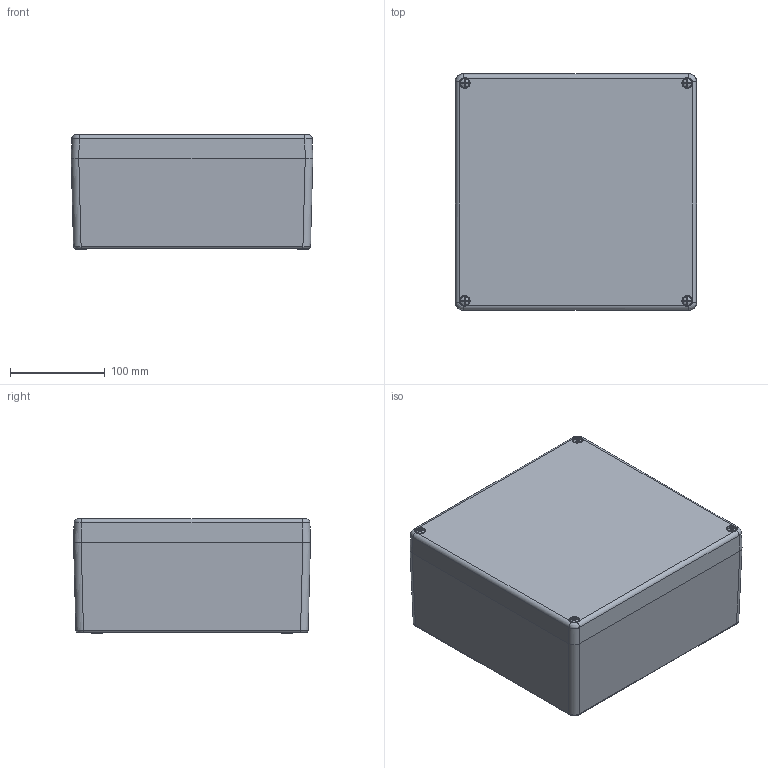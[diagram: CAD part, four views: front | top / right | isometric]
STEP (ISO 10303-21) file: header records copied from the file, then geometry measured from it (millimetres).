
FILE_DESCRIPTION(/* description */ (''),/* implementation_level */ '2;1');
FILE_NAME(/* name */ '4001280.stp',/* time_stamp */ '2020-11-16T08:05:20+01:00',/* author */ (''),/* organization */ (''),/* preprocessor_version */ 'ST-DEVELOPER v16.7',/* originating_system */ 'SIEMENS PLM Software NX 1942',/* authorisation */ '');
FILE_SCHEMA (('AUTOMOTIVE_DESIGN { 1 0 10303 214 3 1 1 1 }'));
Length unit declared in the file: millimetre
Products named in the file (1): BSOM0C0C788Fvnw7
Bounding box: 255 x 250 x 121 mm (x, y, z)
Volume: 1436735.9 mm3; surface area: 498766.5 mm2
Topology: 6 solids, 6 shells, 1098 faces, 2726 edges, 1680 vertices
Faces by surface type: plane 570, cylinder 210, bspline 176, cone 86, torus 48, sphere 8
Full cylindrical faces by diameter (mm): 4.5 x4, 6 x4, 7.5 x10, 10 x4
Entity records: 41872 total; most frequent: CARTESIAN_POINT 17537, ORIENTED_EDGE 5200, DIRECTION 4474, EDGE_CURVE 2600, LINE 1662, VECTOR 1662, VERTEX_POINT 1654, AXIS2_PLACEMENT_3D 1406
